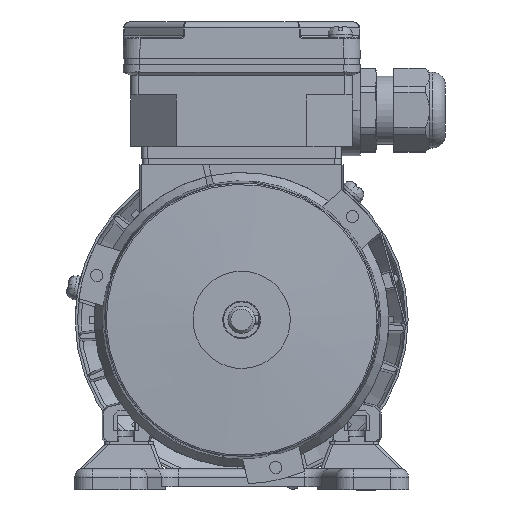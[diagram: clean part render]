
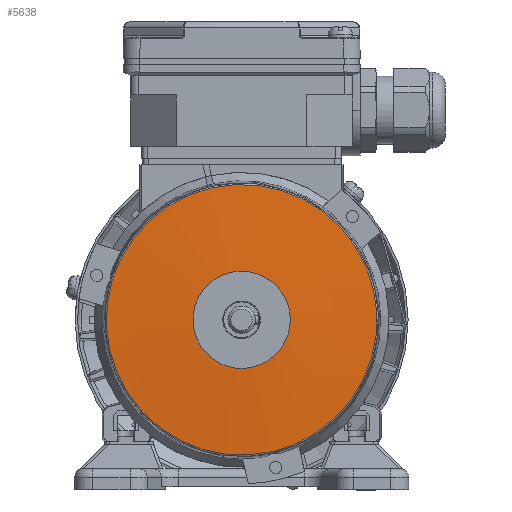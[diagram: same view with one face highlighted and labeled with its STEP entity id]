
A CAD part, left-side view. The second image highlights one B-rep face of the part: STEP entity #5638.
In plain terms, the highlighted conical face has half-angle 87.039 degrees and reference radius 16 mm.
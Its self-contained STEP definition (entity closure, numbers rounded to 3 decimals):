
#5638 = ADVANCED_FACE( '', ( #11254, #11255 ), #11256, .T. );
#11254 = FACE_OUTER_BOUND( '', #21483, .T. );
#11255 = FACE_BOUND( '', #21484, .T. );
#11256 = CONICAL_SURFACE( '', #21485, 16., 1.519 );
#21483 = EDGE_LOOP( '', ( #36600 ) );
#21484 = EDGE_LOOP( '', ( #36601 ) );
#21485 = AXIS2_PLACEMENT_3D( '', #36602, #36603, #36604 );
#36600 = ORIENTED_EDGE( '', *, *, #38660, .T. );
#36601 = ORIENTED_EDGE( '', *, *, #37532, .F. );
#36602 = CARTESIAN_POINT( '', ( 0., 1., 0. ) );
#36603 = DIRECTION( '', ( 0., 1., 0. ) );
#36604 = DIRECTION( '', ( 0., 0., 1. ) );
#37532 = EDGE_CURVE( '', #43916, #43916, #43917, .T. );
#38660 = EDGE_CURVE( '', #45863, #45863, #45864, .T. );
#43916 = VERTEX_POINT( '', #53319 );
#43917 = CIRCLE( '', #53320, 16. );
#45863 = VERTEX_POINT( '', #57148 );
#45864 = CIRCLE( '', #57149, 44.539 );
#53319 = CARTESIAN_POINT( '', ( 0., 1., -16. ) );
#53320 = AXIS2_PLACEMENT_3D( '', #70885, #70886, #70887 );
#57148 = CARTESIAN_POINT( '', ( 0., 2.476, -44.539 ) );
#57149 = AXIS2_PLACEMENT_3D( '', #72266, #72267, #72268 );
#70885 = CARTESIAN_POINT( '', ( 0., 1., 0. ) );
#70886 = DIRECTION( '', ( 0., -1., 0. ) );
#70887 = DIRECTION( '', ( 0., 0., -1. ) );
#72266 = CARTESIAN_POINT( '', ( 0., 2.476, 0. ) );
#72267 = DIRECTION( '', ( 0., -1., 0. ) );
#72268 = DIRECTION( '', ( 0., 0., -1. ) );
